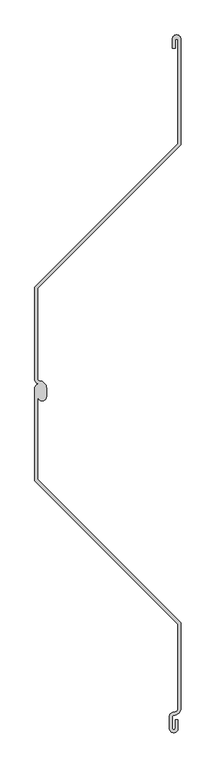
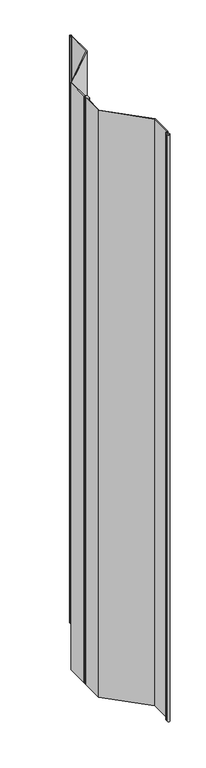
"""IFC4 building model written with IfcOpenShell, lengths in millimetres: column geometry, ITA-Palancola : ITA-Palancola."""

from ifc_helpers import new_model, si_unit, point, frame, frame_2d, origin, place, context, project, spatial, polyline, circle_curve, trimmed, segment, composite_curve, outline, extrude, source, transform, mapped, element, save


def column_76e95c94(model_context):
    return source(origin(), model_context, "Body", "SweptSolid", [
        extrude(outline(composite_curve([segment(polyline([(-344.9598917, -229.5401083), (0.0401083, -574.5401083), (0.0401083, -778.9598917)]), True, "CONTINUOUS"), segment(trimmed(circle_curve(frame_2d((-17.5, -778.9598917)), 17.5401083), [point((0.0401083, -778.9598917))], [point((-17.5, -796.5))], False, "CARTESIAN"), True, "CONTINUOUS"), segment(trimmed(circle_curve(frame_2d((-17.5, -800.0)), 3.5), [point((-17.5, -796.5))], [point((-21.0, -800.0))], True, "CARTESIAN"), True, "CONTINUOUS"), segment(polyline([(-21.0, -800.0), (-21.0, -828.0)]), True, "CONTINUOUS"), segment(trimmed(circle_curve(frame_2d((-17.5, -828.0)), 3.5), [point((-21.0, -828.0))], [point((-14.0, -828.0))], True, "CARTESIAN"), True, "CONTINUOUS"), segment(polyline([(-14.0, -828.0), (-14.0, -807.0), (-7.0, -807.0), (-7.0, -828.0)]), True, "CONTINUOUS"), segment(trimmed(circle_curve(frame_2d((-17.5, -828.0)), 10.5), [point((-7.0, -828.0))], [point((-28.0, -828.0))], False, "CARTESIAN"), True, "CONTINUOUS"), segment(polyline([(-28.0, -828.0), (-28.0, -800.0)]), True, "CONTINUOUS"), segment(trimmed(circle_curve(frame_2d((-17.5, -800.0)), 10.5), [point((-28.0, -800.0))], [point((-17.5, -789.5))], False, "CARTESIAN"), True, "CONTINUOUS"), segment(trimmed(circle_curve(frame_2d((-17.5, -778.9598917)), 10.5401083), [point((-17.5, -789.5))], [point((-6.9598917, -778.9598917))], True, "CARTESIAN"), True, "CONTINUOUS"), segment(polyline([(-6.9598917, -778.9598917), (-6.9598917, -577.4396032), (-351.9598917, -232.4396032), (-351.9598917, -10.5401083)]), True, "CONTINUOUS"), segment(trimmed(circle_curve(frame_2d((-341.4598917, -10.5401083)), 10.5), [point((-351.9598917, -10.5401083))], [point((-341.4598917, -0.0401083))], False, "CARTESIAN"), True, "CONTINUOUS"), segment(trimmed(circle_curve(frame_2d((-341.4598917, 10.4598917)), 10.5), [point((-341.4598917, -0.0401083))], [point((-351.9598917, 10.4598917))], False, "CARTESIAN"), True, "CONTINUOUS"), segment(polyline([(-351.9598917, 10.4598917), (-351.9598917, 232.4596574), (-6.9598917, 577.4596574), (-6.9598917, 828.0), (-13.9598917, 828.0), (-13.9598917, 807.0), (-20.9598917, 807.0), (-20.9598917, 828.0)]), True, "CONTINUOUS"), segment(trimmed(circle_curve(frame_2d((-10.4598917, 828.0)), 10.5), [point((-20.9598917, 828.0))], [point((0.0401083, 828.0))], False, "CARTESIAN"), True, "CONTINUOUS"), segment(polyline([(0.0401083, 828.0), (0.0401083, 574.5601624), (-344.9598917, 229.5601624), (-344.9598917, 10.4598917)]), True, "CONTINUOUS"), segment(trimmed(circle_curve(frame_2d((-341.4598917, 10.4598917)), 3.5), [point((-344.9598917, 10.4598917))], [point((-341.4598917, 6.9598917))], True, "CARTESIAN"), True, "CONTINUOUS"), segment(trimmed(circle_curve(frame_2d((-341.4598917, -10.5401083)), 17.5), [point((-341.4598917, 6.9598917))], [point((-323.9598917, -10.5401083))], False, "CARTESIAN"), True, "CONTINUOUS"), segment(polyline([(-323.9598917, -10.5401083), (-323.9598917, -30.5401083)]), True, "CONTINUOUS"), segment(trimmed(circle_curve(frame_2d((-334.4598917, -30.5401083)), 10.5), [point((-323.9598917, -30.5401083))], [point((-344.9598917, -30.5401083))], False, "CARTESIAN"), True, "CONTINUOUS"), segment(polyline([(-344.9598917, -30.5401083), (-344.9598917, -229.5401083)]), True, "CONTINUOUS")], self_intersect=False)), frame((0.0, 0.0, -6000.0), z_axis=(0.0, 0.0, 1.0), x_axis=(1.0, 0.0, 0.0)), (0.0, 0.0, 1.0), 6000.0),
    ])


if __name__ == "__main__":
    model = new_model("IFC4")
    model_context = context("Model", 3, world=origin())
    ifc_project = project(units=[si_unit("LENGTHUNIT", "METRE", prefix="MILLI")], contexts=[model_context])
    site = spatial("IfcSite", under=ifc_project)
    building = spatial("IfcBuilding", under=site)
    placement = place(None, origin())
    column_shape = column_76e95c94(model_context)
    element("IfcColumn", 1, ObjectType="ITA-Palancola : ITA-Palancola", at=placement, inside=building, context=model_context, shape_type="MappedRepresentation", body=[
        mapped(column_shape, transform((0.0, 0.0, 0.0), x_axis=(1.0, 0.0, 0.0), y_axis=(0.0, 1.0, 0.0), z_axis=(0.0, 0.0, 1.0))),
    ])
    save(model, "model.ifc")
